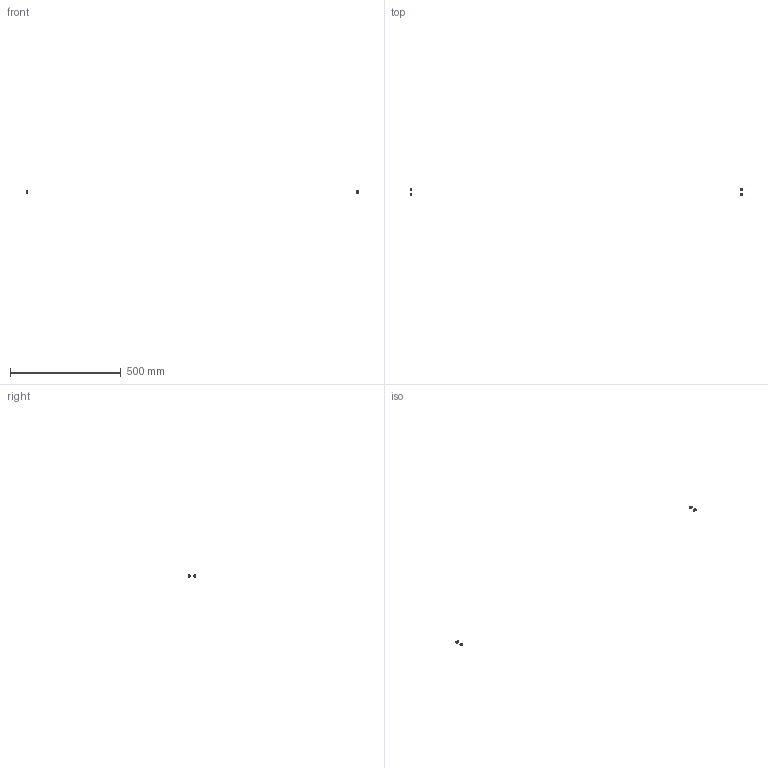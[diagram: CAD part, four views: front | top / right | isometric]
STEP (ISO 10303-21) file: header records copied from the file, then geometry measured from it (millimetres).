
FILE_DESCRIPTION(/* description */ (''),/* implementation_level */ '2;1');
FILE_NAME(/* name */ 'Y-C21B~1',/* time_stamp */ '2014-02-14T19:42:05+01:00',/* author */ (''),/* organization */ (''),/* preprocessor_version */ 'ST-DEVELOPER v14',/* originating_system */ '',/* authorisation */ '');
FILE_SCHEMA (('AUTOMOTIVE_DESIGN'));
Length unit declared in the file: millimetre
Products named in the file (2): Document; washer DIN9021-like, form G, M4
Assembly tree (4 placements, depth 2):
  Document
    washer DIN9021-like, form G, M4  x4
Bounding box: 1499 x 36 x 10 mm (x, y, z)
Surface area: 1551 mm2 (no closed solid volume)
Topology: 0 solids, 48 shells, 48 faces, 160 edges, 160 vertices
Faces by surface type: bspline 32, plane 16
Entity records: 2543 total; most frequent: CARTESIAN_POINT 1277, B_SPLINE_CURVE_WITH_KNOTS 120, ORIENTED_EDGE 100, PCURVE 100, DEFINITIONAL_REPRESENTATION 100, SURFACE_CURVE 100, EDGE_CURVE 100, VERTEX_POINT 100
